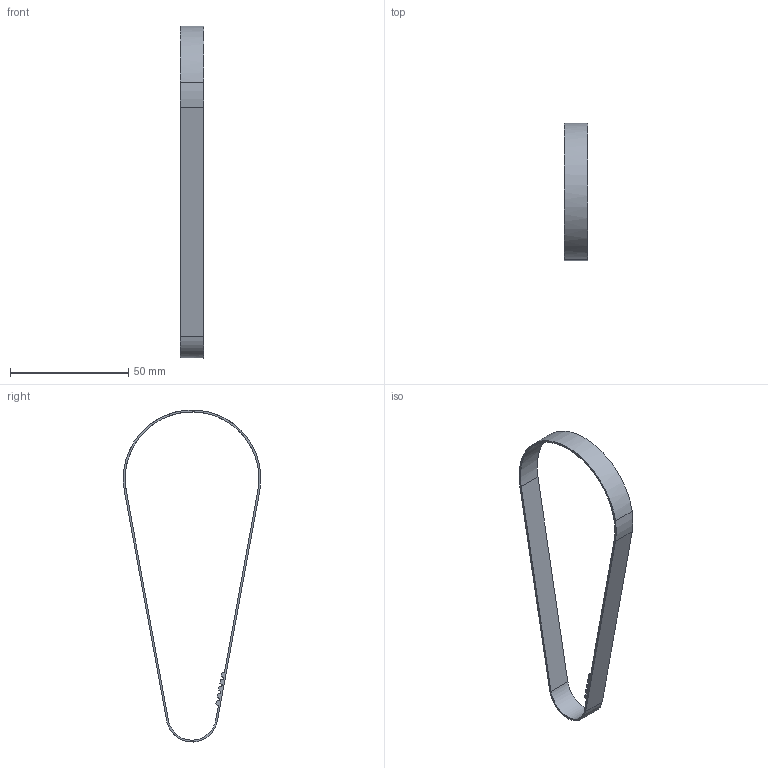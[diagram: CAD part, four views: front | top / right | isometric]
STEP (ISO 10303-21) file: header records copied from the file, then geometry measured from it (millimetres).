
FILE_DESCRIPTION(/* description */ (''),/* implementation_level */ '2;1');
FILE_NAME(/* name */ '6.y-drive#6.2#GBN3273GT-90',/* time_stamp */ '2014-12-01T20:13:59+01:00',/* author */ (''),/* organization */ (''),/* preprocessor_version */ 'ST-DEVELOPER v14',/* originating_system */ '',/* authorisation */ '');
FILE_SCHEMA (('AUTOMOTIVE_DESIGN'));
Length unit declared in the file: millimetre
Products named in the file (1): Document
Bounding box: 10 x 58.07 x 140.34 mm (x, y, z)
Volume: 2707.2 mm3; surface area: 7171.3 mm2
Topology: 1 solids, 1 shells, 48 faces, 138 edges, 92 vertices
Faces by surface type: plane 32, bspline 16
Entity records: 3176 total; most frequent: CARTESIAN_POINT 1412, B_SPLINE_CURVE_WITH_KNOTS 290, ORIENTED_EDGE 276, PCURVE 276, DEFINITIONAL_REPRESENTATION 276, SURFACE_CURVE 138, EDGE_CURVE 138, VERTEX_POINT 92
